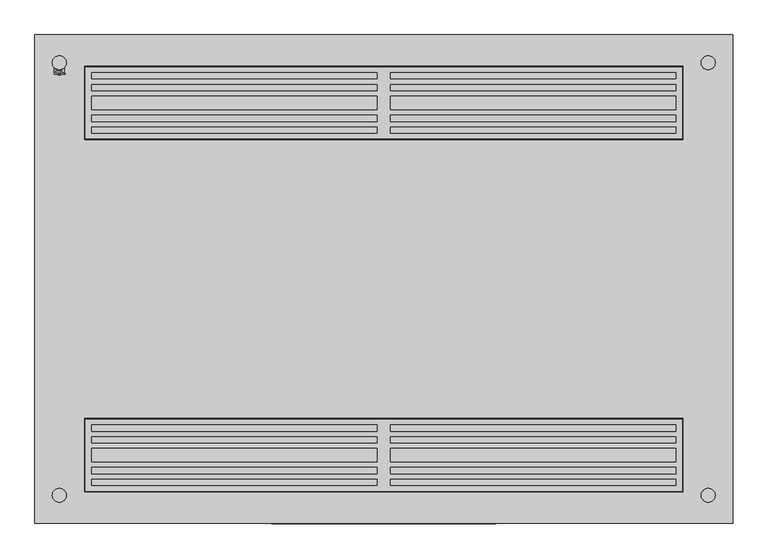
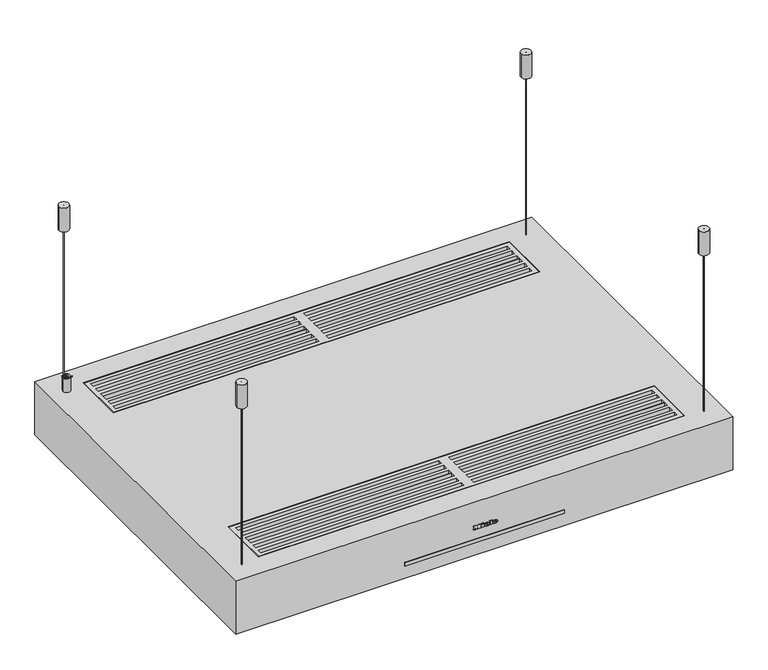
"""IFC4 building model written with IfcOpenShell, lengths in millimetres: proxy geometry, 10863410_RU_DA6708D_BRWS : 28670835_RU_10863410_DA6708D_BRWS."""

from ifc_helpers import new_model, si_unit, point, frame, frame_2d, origin, place, context, project, spatial, polyline, circle_curve, ellipse_curve, trimmed, segment, composite_curve, outline, extrude, faceted_brep, source, transform, mapped, element, save
from ifc_brep_helpers import plane_surface, cylinder_surface, revolved_surface, extruded_surface, advanced_brep


def specialty_equipment_cb2d4b99(model_context):
    return source(origin(), model_context, "Body", "SolidModel", [
        advanced_brep(
        [(195.883263, 289.0, 0.0), (254.116737, 289.0, 0.0), (251.5433287, 289.0, -1.2), (198.4566713, 289.0, -1.2), (225.0, 289.0, -1.2), (225.0, 289.0, 0.0)],
        [
            (0, 1, circle_curve(frame((225.0, 289.0, 0.0), z_axis=(0.0, 0.0, -1.0), x_axis=(1.0, 0.0, 0.0)), 29.116737)),
            (1, 2),
            (2, 3, circle_curve(frame((225.0, 289.0, -1.2), z_axis=(0.0, 0.0, 1.0), x_axis=(1.0, 0.0, 0.0)), 26.5433287)),
            (3, 0),
            (1, 0, circle_curve(frame((225.0, 289.0, 0.0), z_axis=(0.0, 0.0, -1.0), x_axis=(1.0, 0.0, 0.0)), 29.116737)),
            (3, 2, circle_curve(frame((225.0, 289.0, -1.2), z_axis=(0.0, 0.0, 1.0), x_axis=(1.0, 0.0, 0.0)), 26.5433287)),
            (2, 4),
            (4, 3),
            (5, 1),
            (0, 5),
        ],
        [
            revolved_surface(polyline([(251.5433287, 289.0, -1.2), (254.116737, 289.0, 0.0)]), (225.0, 289.0, 2238.4), (0.0, 0.0, 1.0)),
            plane_surface(frame((225.0, 289.0, -1.2), z_axis=(0.0, 0.0, -1.0), x_axis=(1.0, 0.0, 0.0))),
            plane_surface(frame((225.0, 289.0, 0.0), z_axis=(0.0, 0.0, 1.0), x_axis=(1.0, 0.0, 0.0))),
        ],
        [
            (0, [[1, 2, 3, 4]]),
            (0, [[5, -4, 6, -2]]),
            (1, [[-3, 7, 8]]),
            (1, [[-6, -8, -7]]),
            (2, [[9, -1, 10]]),
            (2, [[-10, -5, -9]]),
        ],
    ),
        advanced_brep(
        [(-254.116737, 289.0, 0.0), (-195.883263, 289.0, 0.0), (-198.4566713, 289.0, -1.2), (-251.5433287, 289.0, -1.2), (-225.0, 289.0, -1.2), (-225.0, 289.0, 0.0)],
        [
            (0, 1, circle_curve(frame((-225.0, 289.0, 0.0), z_axis=(0.0, 0.0, -1.0), x_axis=(1.0, 0.0, 0.0)), 29.116737)),
            (1, 2),
            (2, 3, circle_curve(frame((-225.0, 289.0, -1.2), z_axis=(0.0, 0.0, 1.0), x_axis=(1.0, 0.0, 0.0)), 26.5433287)),
            (3, 0),
            (1, 0, circle_curve(frame((-225.0, 289.0, 0.0), z_axis=(0.0, 0.0, -1.0), x_axis=(1.0, 0.0, 0.0)), 29.116737)),
            (3, 2, circle_curve(frame((-225.0, 289.0, -1.2), z_axis=(0.0, 0.0, 1.0), x_axis=(1.0, 0.0, 0.0)), 26.5433287)),
            (2, 4),
            (4, 3),
            (5, 1),
            (0, 5),
        ],
        [
            revolved_surface(polyline([(-198.4566713, 289.0, -1.2), (-195.883263, 289.0, 0.0)]), (-225.0, 289.0, 2238.4), (0.0, 0.0, 1.0)),
            plane_surface(frame((-225.0, 289.0, -1.2), z_axis=(0.0, 0.0, -1.0), x_axis=(1.0, 0.0, 0.0))),
            plane_surface(frame((-225.0, 289.0, 0.0), z_axis=(0.0, 0.0, 1.0), x_axis=(1.0, 0.0, 0.0))),
        ],
        [
            (0, [[1, 2, 3, 4]]),
            (0, [[5, -4, 6, -2]]),
            (1, [[-3, 7, 8]]),
            (1, [[-6, -8, -7]]),
            (2, [[9, -1, 10]]),
            (2, [[-10, -5, -9]]),
        ],
    ),
        advanced_brep(
        [(-251.5433287, -289.0, -1.2), (-198.4566713, -289.0, -1.2), (-195.883263, -289.0, 0.0), (-254.116737, -289.0, 0.0), (-225.0, -289.0, -1.2), (-225.0, -289.0, 0.0)],
        [
            (0, 1, circle_curve(frame((-225.0, -289.0, -1.2), z_axis=(0.0, 0.0, 1.0), x_axis=(1.0, 0.0, 0.0)), 26.5433287)),
            (1, 2),
            (2, 3, circle_curve(frame((-225.0, -289.0, 0.0), z_axis=(0.0, 0.0, -1.0), x_axis=(1.0, 0.0, 0.0)), 29.116737)),
            (3, 0),
            (1, 0, circle_curve(frame((-225.0, -289.0, -1.2), z_axis=(0.0, 0.0, 1.0), x_axis=(1.0, 0.0, 0.0)), 26.5433287)),
            (3, 2, circle_curve(frame((-225.0, -289.0, 0.0), z_axis=(0.0, 0.0, -1.0), x_axis=(1.0, 0.0, 0.0)), 29.116737)),
            (0, 4),
            (4, 1),
            (2, 5),
            (5, 3),
        ],
        [
            revolved_surface(polyline([(-195.883263, -289.0, 0.0), (-198.4566713, -289.0, -1.2)]), (-225.0, -289.0, 2238.4), (0.0, 0.0, -1.0)),
            plane_surface(frame((-225.0, -289.0, -1.2), z_axis=(0.0, 0.0, -1.0), x_axis=(1.0, 0.0, 0.0))),
            plane_surface(frame((-225.0, -289.0, 0.0), z_axis=(0.0, 0.0, 1.0), x_axis=(1.0, 0.0, 0.0))),
        ],
        [
            (0, [[1, 2, 3, 4]]),
            (0, [[-2, 5, -4, 6]]),
            (1, [[-1, 7, 8]]),
            (1, [[-5, -8, -7]]),
            (2, [[-3, 9, 10]]),
            (2, [[-6, -10, -9]]),
        ],
    ),
        advanced_brep(
        [(198.4566713, -289.0, -1.2), (251.5433287, -289.0, -1.2), (254.116737, -289.0, 0.0), (195.883263, -289.0, 0.0), (225.0, -289.0, -1.2), (225.0, -289.0, 0.0)],
        [
            (0, 1, circle_curve(frame((225.0, -289.0, -1.2), z_axis=(0.0, 0.0, 1.0), x_axis=(1.0, 0.0, 0.0)), 26.5433287)),
            (1, 2),
            (2, 3, circle_curve(frame((225.0, -289.0, 0.0), z_axis=(0.0, 0.0, -1.0), x_axis=(1.0, 0.0, 0.0)), 29.116737)),
            (3, 0),
            (1, 0, circle_curve(frame((225.0, -289.0, -1.2), z_axis=(0.0, 0.0, 1.0), x_axis=(1.0, 0.0, 0.0)), 26.5433287)),
            (3, 2, circle_curve(frame((225.0, -289.0, 0.0), z_axis=(0.0, 0.0, -1.0), x_axis=(1.0, 0.0, 0.0)), 29.116737)),
            (0, 4),
            (4, 1),
            (2, 5),
            (5, 3),
        ],
        [
            revolved_surface(polyline([(254.116737, -289.0, 0.0), (251.5433287, -289.0, -1.2)]), (225.0, -289.0, 2238.4), (0.0, 0.0, -1.0)),
            plane_surface(frame((225.0, -289.0, -1.2), z_axis=(0.0, 0.0, -1.0), x_axis=(1.0, 0.0, 0.0))),
            plane_surface(frame((225.0, -289.0, 0.0), z_axis=(0.0, 0.0, 1.0), x_axis=(1.0, 0.0, 0.0))),
        ],
        [
            (0, [[1, 2, 3, 4]]),
            (0, [[-2, 5, -4, 6]]),
            (1, [[-1, 7, 8]]),
            (1, [[-5, -8, -7]]),
            (2, [[-3, 9, 10]]),
            (2, [[-6, -10, -9]]),
        ],
    ),
        extrude(outline(composite_curve([segment(trimmed(circle_curve(frame_2d((-465.0, -310.0)), 10.0), [point((-475.0, -310.0))], [point((-455.0, -310.0))], False, "CARTESIAN"), True, "CONTINUOUS"), segment(trimmed(circle_curve(frame_2d((-465.0, -310.0)), 10.0), [point((-455.0, -310.0))], [point((-475.0, -310.0))], False, "CARTESIAN"), True, "CONTINUOUS")], self_intersect=False)), frame((0.0, 0.0, 450.0), z_axis=(0.0, 0.0, 1.0), x_axis=(1.0, 0.0, 0.0)), (0.0, 0.0, 1.0), 50.0),
        extrude(outline(composite_curve([segment(trimmed(circle_curve(frame_2d((465.0, -310.0)), 10.0), [point((455.0, -310.0))], [point((475.0, -310.0))], False, "CARTESIAN"), True, "CONTINUOUS"), segment(trimmed(circle_curve(frame_2d((465.0, -310.0)), 10.0), [point((475.0, -310.0))], [point((455.0, -310.0))], False, "CARTESIAN"), True, "CONTINUOUS")], self_intersect=False)), frame((0.0, 0.0, 450.0), z_axis=(0.0, 0.0, 1.0), x_axis=(1.0, 0.0, 0.0)), (0.0, 0.0, 1.0), 50.0),
        extrude(outline(composite_curve([segment(trimmed(circle_curve(frame_2d((465.0, 310.0)), 10.0), [point((455.0, 310.0))], [point((475.0, 310.0))], False, "CARTESIAN"), True, "CONTINUOUS"), segment(trimmed(circle_curve(frame_2d((465.0, 310.0)), 10.0), [point((475.0, 310.0))], [point((455.0, 310.0))], False, "CARTESIAN"), True, "CONTINUOUS")], self_intersect=False)), frame((0.0, 0.0, 450.0), z_axis=(0.0, 0.0, 1.0), x_axis=(1.0, 0.0, 0.0)), (0.0, 0.0, 1.0), 50.0),
        extrude(outline(composite_curve([segment(trimmed(circle_curve(frame_2d((-465.0, 310.0)), 10.0), [point((-475.0, 310.0))], [point((-455.0, 310.0))], False, "CARTESIAN"), True, "CONTINUOUS"), segment(trimmed(circle_curve(frame_2d((-465.0, 310.0)), 10.0), [point((-455.0, 310.0))], [point((-475.0, 310.0))], False, "CARTESIAN"), True, "CONTINUOUS")], self_intersect=False)), frame((0.0, 0.0, 450.0), z_axis=(0.0, 0.0, 1.0), x_axis=(1.0, 0.0, 0.0)), (0.0, 0.0, 1.0), 50.0),
        extrude(outline(composite_curve([segment(trimmed(circle_curve(frame_2d((-465.0, -310.0)), 0.8), [point((-465.8, -310.0))], [point((-464.2, -310.0))], False, "CARTESIAN"), True, "CONTINUOUS"), segment(trimmed(circle_curve(frame_2d((-465.0, -310.0)), 0.8), [point((-464.2, -310.0))], [point((-465.8, -310.0))], False, "CARTESIAN"), True, "CONTINUOUS")], self_intersect=False)), frame((0.0, 0.0, 112.0), z_axis=(0.0, 0.0, 1.0), x_axis=(1.0, 0.0, 0.0)), (0.0, 0.0, 1.0), 388.0),
        extrude(outline(composite_curve([segment(trimmed(circle_curve(frame_2d((465.0, -310.0)), 0.8), [point((464.2, -310.0))], [point((465.8, -310.0))], False, "CARTESIAN"), True, "CONTINUOUS"), segment(trimmed(circle_curve(frame_2d((465.0, -310.0)), 0.8), [point((465.8, -310.0))], [point((464.2, -310.0))], False, "CARTESIAN"), True, "CONTINUOUS")], self_intersect=False)), frame((0.0, 0.0, 112.0), z_axis=(0.0, 0.0, 1.0), x_axis=(1.0, 0.0, 0.0)), (0.0, 0.0, 1.0), 388.0),
        extrude(outline(composite_curve([segment(trimmed(circle_curve(frame_2d((465.0, 310.0)), 0.8), [point((464.2, 310.0))], [point((465.8, 310.0))], False, "CARTESIAN"), True, "CONTINUOUS"), segment(trimmed(circle_curve(frame_2d((465.0, 310.0)), 0.8), [point((465.8, 310.0))], [point((464.2, 310.0))], False, "CARTESIAN"), True, "CONTINUOUS")], self_intersect=False)), frame((0.0, 0.0, 112.0), z_axis=(0.0, 0.0, 1.0), x_axis=(1.0, 0.0, 0.0)), (0.0, 0.0, 1.0), 388.0),
        extrude(outline(composite_curve([segment(trimmed(circle_curve(frame_2d((-465.0, 310.0)), 0.8), [point((-465.8, 310.0))], [point((-464.2, 310.0))], False, "CARTESIAN"), True, "CONTINUOUS"), segment(trimmed(circle_curve(frame_2d((-465.0, 310.0)), 0.8), [point((-464.2, 310.0))], [point((-465.8, 310.0))], False, "CARTESIAN"), True, "CONTINUOUS")], self_intersect=False)), frame((0.0, 0.0, 112.0), z_axis=(0.0, 0.0, 1.0), x_axis=(1.0, 0.0, 0.0)), (0.0, 0.0, 1.0), 388.0),
        advanced_brep(
        [(21.104, -351.0, 56.396), (21.104, -351.0, 57.204), (26.456, -351.0, 57.204), (17.144, -351.0, 57.204), (19.344, -351.0, 54.5), (26.32, -351.0, 56.396), (23.904, -351.0, 56.396), (22.0, -351.0, 55.5), (21.104, -351.0, 58.228), (21.104, -351.0, 59.1), (22.472, -351.0, 59.1), (22.472, -351.0, 58.228), (21.104, -350.0, 56.396), (22.0, -350.0, 55.5), (23.904, -350.0, 56.396), (26.32, -350.0, 56.396), (19.344, -350.0, 54.5), (17.144, -350.0, 57.204), (26.456, -350.0, 57.204), (21.104, -350.0, 57.204), (21.104, -350.0, 58.228), (22.472, -350.0, 58.228), (22.472, -350.0, 59.1), (21.104, -350.0, 59.1)],
        [
            (0, 1),
            (1, 2),
            (2, 3, ellipse_curve(frame((21.8, -351.0, 57.204), z_axis=(0.0, -1.0, 0.0), x_axis=(-1.0, 0.0, 0.0)), 4.656, 3.848)),
            (3, 4, circle_curve(frame((20.2400436, -351.0, 57.476), z_axis=(0.0, -1.0, 0.0), x_axis=(0.0, 0.0, -1.0)), 3.1079688)),
            (4, 5, circle_curve(frame((21.7067936, -351.0, 59.588), z_axis=(0.0, -1.0, 0.0), x_axis=(0.0, 0.0, -1.0)), 5.6098607)),
            (5, 6),
            (6, 7, circle_curve(frame((22.3910588, -351.0, 57.14), z_axis=(0.0, 1.0, 0.0), x_axis=(0.0, 0.0, -1.0)), 1.6859795)),
            (7, 0, circle_curve(frame((22.0, -351.0, 56.396), z_axis=(0.0, 1.0, 0.0), x_axis=(0.0, 0.0, -1.0)), 0.896)),
            (8, 9),
            (9, 10, circle_curve(frame((21.788, -351.0, 59.1), z_axis=(0.0, 1.0, 0.0), x_axis=(0.0, 0.0, -1.0)), 0.684)),
            (10, 11),
            (11, 8),
            (12, 13, circle_curve(frame((22.0, -350.0, 56.396), z_axis=(0.0, -1.0, 0.0), x_axis=(0.0, 0.0, -1.0)), 0.896)),
            (13, 14, circle_curve(frame((22.3910588, -350.0, 57.14), z_axis=(0.0, -1.0, 0.0), x_axis=(0.0, 0.0, -1.0)), 1.6859795)),
            (14, 15),
            (15, 16, circle_curve(frame((21.7067936, -350.0, 59.588), z_axis=(0.0, 1.0, 0.0), x_axis=(0.0, 0.0, -1.0)), 5.6098607)),
            (16, 17, circle_curve(frame((20.2400436, -350.0, 57.476), z_axis=(0.0, 1.0, 0.0), x_axis=(0.0, 0.0, -1.0)), 3.1079688)),
            (17, 18, ellipse_curve(frame((21.8, -350.0, 57.204), z_axis=(0.0, 1.0, 0.0), x_axis=(-1.0, 0.0, 0.0)), 4.656, 3.848)),
            (18, 19),
            (19, 12),
            (20, 21),
            (21, 22),
            (22, 23, circle_curve(frame((21.788, -350.0, 59.1), z_axis=(0.0, -1.0, 0.0), x_axis=(0.0, 0.0, -1.0)), 0.684)),
            (23, 20),
            (0, 12),
            (19, 1),
            (18, 2),
            (5, 15),
            (14, 6),
            (17, 3),
            (13, 7),
            (16, 4),
            (8, 20),
            (23, 9),
            (22, 10),
            (21, 11),
        ],
        [
            plane_surface(frame((21.104, -351.0, 57.204), z_axis=(0.0, -1.0, 0.0), x_axis=(0.0, 0.0, 1.0))),
            plane_surface(frame((21.104, -350.0, 57.204), z_axis=(0.0, 1.0, 0.0), x_axis=(0.0, 0.0, -1.0))),
            plane_surface(frame((21.104, -351.0, 56.396), z_axis=(1.0, 0.0, 0.0), x_axis=(0.0, 1.0, 0.0))),
            plane_surface(frame((21.104, -351.0, 57.204), z_axis=(0.0, 0.0, -1.0), x_axis=(0.0, 1.0, 0.0))),
            plane_surface(frame((26.32, -351.0, 56.396), z_axis=(0.0, 0.0, 1.0), x_axis=(0.0, 1.0, 0.0))),
            extruded_surface(trimmed(ellipse_curve(frame((21.8, -349.0, 57.204), z_axis=(0.0, -1.0, 0.0), x_axis=(-1.0, 0.0, 0.0)), 4.656, 3.848), [point((26.456, -349.0, 57.204))], [point((17.144, -349.0, 57.204))], True, "CARTESIAN"), (0.0, -1.0, 0.0), 1.0),
            revolved_surface(polyline([(22.3910588, -350.0, 55.4540205), (22.3910588, -351.0, 55.4540205)]), (22.3910588, -350.0, 57.14), (0.0, 1.0, 0.0)),
            revolved_surface(polyline([(22.0, -350.0, 55.5), (22.0, -351.0, 55.5)]), (22.0, -350.0, 56.396), (0.0, 1.0, 0.0)),
            cylinder_surface(frame((20.2400436, -350.0, 57.476), z_axis=(0.0, -1.0, 0.0), x_axis=(0.0, 0.0, -1.0)), 3.1079688),
            cylinder_surface(frame((21.7067936, -350.0, 59.588), z_axis=(0.0, -1.0, 0.0), x_axis=(0.0, 0.0, -1.0)), 5.6098607),
            plane_surface(frame((21.104, -351.0, 58.228), z_axis=(1.0, 0.0, 0.0), x_axis=(0.0, 1.0, 0.0))),
            revolved_surface(polyline([(21.788, -350.0, 58.416000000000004), (21.788, -351.0, 58.416000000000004)]), (21.788, -350.0, 59.1), (0.0, 1.0, 0.0)),
            plane_surface(frame((22.472, -351.0, 59.1), z_axis=(-1.0, 0.0, 0.0), x_axis=(0.0, 1.0, 0.0))),
            plane_surface(frame((22.472, -351.0, 58.228), z_axis=(0.0, 0.0, 1.0), x_axis=(0.0, 1.0, 0.0))),
        ],
        [
            (0, [[1, 2, 3, 4, 5, 6, 7, 8], [9, 10, 11, 12]]),
            (1, [[13, 14, 15, 16, 17, 18, 19, 20], [21, 22, 23, 24]]),
            (2, [[-1, 25, -20, 26]]),
            (3, [[-2, -26, -19, 27]]),
            (4, [[-6, 28, -15, 29]]),
            (5, [[-3, -27, -18, 30]]),
            (6, [[-7, -29, -14, 31]]),
            (7, [[-8, -31, -13, -25]]),
            (8, [[-4, -30, -17, 32]]),
            (9, [[-5, -32, -16, -28]]),
            (10, [[-9, 33, -24, 34]]),
            (11, [[-10, -34, -23, 35]]),
            (12, [[-11, -35, -22, 36]]),
            (13, [[-12, -36, -21, -33]]),
        ],
    ),
        advanced_brep(
        [(4.408, -351.0, 56.396), (4.408, -351.0, 57.204), (9.76, -351.0, 57.204), (0.448, -351.0, 57.204), (2.648, -351.0, 54.5), (9.624, -351.0, 56.396), (7.208, -351.0, 56.396), (5.304, -351.0, 55.5), (4.408, -351.0, 58.228), (4.408, -351.0, 59.1), (5.776, -351.0, 59.1), (5.776, -351.0, 58.228), (4.408, -350.0, 56.396), (5.304, -350.0, 55.5), (7.208, -350.0, 56.396), (9.624, -350.0, 56.396), (2.648, -350.0, 54.5), (0.448, -350.0, 57.204), (9.76, -350.0, 57.204), (4.408, -350.0, 57.204), (4.408, -350.0, 58.228), (5.776, -350.0, 58.228), (5.776, -350.0, 59.1), (4.408, -350.0, 59.1)],
        [
            (0, 1),
            (1, 2),
            (2, 3, ellipse_curve(frame((5.104, -351.0, 57.204), z_axis=(0.0, -1.0, 0.0), x_axis=(-1.0, 0.0, 0.0)), 4.656, 3.848)),
            (3, 4, circle_curve(frame((3.5440436, -351.0, 57.476), z_axis=(0.0, -1.0, 0.0), x_axis=(0.0, 0.0, -1.0)), 3.1079688)),
            (4, 5, circle_curve(frame((5.0107936, -351.0, 59.588), z_axis=(0.0, -1.0, 0.0), x_axis=(0.0, 0.0, -1.0)), 5.6098607)),
            (5, 6),
            (6, 7, circle_curve(frame((5.6950588, -351.0, 57.14), z_axis=(0.0, 1.0, 0.0), x_axis=(0.0, 0.0, -1.0)), 1.6859795)),
            (7, 0, circle_curve(frame((5.304, -351.0, 56.396), z_axis=(0.0, 1.0, 0.0), x_axis=(0.0, 0.0, -1.0)), 0.896)),
            (8, 9),
            (9, 10, circle_curve(frame((5.092, -351.0, 59.1), z_axis=(0.0, 1.0, 0.0), x_axis=(0.0, 0.0, -1.0)), 0.684)),
            (10, 11),
            (11, 8),
            (12, 13, circle_curve(frame((5.304, -350.0, 56.396), z_axis=(0.0, -1.0, 0.0), x_axis=(0.0, 0.0, -1.0)), 0.896)),
            (13, 14, circle_curve(frame((5.6950588, -350.0, 57.14), z_axis=(0.0, -1.0, 0.0), x_axis=(0.0, 0.0, -1.0)), 1.6859795)),
            (14, 15),
            (15, 16, circle_curve(frame((5.0107936, -350.0, 59.588), z_axis=(0.0, 1.0, 0.0), x_axis=(0.0, 0.0, -1.0)), 5.6098607)),
            (16, 17, circle_curve(frame((3.5440436, -350.0, 57.476), z_axis=(0.0, 1.0, 0.0), x_axis=(0.0, 0.0, -1.0)), 3.1079688)),
            (17, 18, ellipse_curve(frame((5.104, -350.0, 57.204), z_axis=(0.0, 1.0, 0.0), x_axis=(-1.0, 0.0, 0.0)), 4.656, 3.848)),
            (18, 19),
            (19, 12),
            (20, 21),
            (21, 22),
            (22, 23, circle_curve(frame((5.092, -350.0, 59.1), z_axis=(0.0, -1.0, 0.0), x_axis=(0.0, 0.0, -1.0)), 0.684)),
            (23, 20),
            (0, 12),
            (19, 1),
            (18, 2),
            (5, 15),
            (14, 6),
            (17, 3),
            (13, 7),
            (16, 4),
            (8, 20),
            (23, 9),
            (22, 10),
            (21, 11),
        ],
        [
            plane_surface(frame((4.408, -351.0, 57.204), z_axis=(0.0, -1.0, 0.0), x_axis=(0.0, 0.0, 1.0))),
            plane_surface(frame((4.408, -350.0, 57.204), z_axis=(0.0, 1.0, 0.0), x_axis=(0.0, 0.0, -1.0))),
            plane_surface(frame((4.408, -351.0, 56.396), z_axis=(1.0, 0.0, 0.0), x_axis=(0.0, 1.0, 0.0))),
            plane_surface(frame((4.408, -351.0, 57.204), z_axis=(0.0, 0.0, -1.0), x_axis=(0.0, 1.0, 0.0))),
            plane_surface(frame((9.624, -351.0, 56.396), z_axis=(0.0, 0.0, 1.0), x_axis=(0.0, 1.0, 0.0))),
            extruded_surface(trimmed(ellipse_curve(frame((5.104, -349.0, 57.204), z_axis=(0.0, -1.0, 0.0), x_axis=(-1.0, 0.0, 0.0)), 4.656, 3.848), [point((9.76, -349.0, 57.204))], [point((0.448, -349.0, 57.204))], True, "CARTESIAN"), (0.0, -1.0, 0.0), 1.0),
            revolved_surface(polyline([(5.6950588, -350.0, 55.4540205), (5.6950588, -351.0, 55.4540205)]), (5.6950588, -350.0, 57.14), (0.0, 1.0, 0.0)),
            revolved_surface(polyline([(5.304, -350.0, 55.5), (5.304, -351.0, 55.5)]), (5.304, -350.0, 56.396), (0.0, 1.0, 0.0)),
            cylinder_surface(frame((3.5440436, -350.0, 57.476), z_axis=(0.0, -1.0, 0.0), x_axis=(0.0, 0.0, -1.0)), 3.1079688),
            cylinder_surface(frame((5.0107936, -350.0, 59.588), z_axis=(0.0, -1.0, 0.0), x_axis=(0.0, 0.0, -1.0)), 5.6098607),
            plane_surface(frame((4.408, -351.0, 58.228), z_axis=(1.0, 0.0, 0.0), x_axis=(0.0, 1.0, 0.0))),
            revolved_surface(polyline([(5.092, -350.0, 58.416000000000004), (5.092, -351.0, 58.416000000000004)]), (5.092, -350.0, 59.1), (0.0, 1.0, 0.0)),
            plane_surface(frame((5.776, -351.0, 59.1), z_axis=(-1.0, 0.0, 0.0), x_axis=(0.0, 1.0, 0.0))),
            plane_surface(frame((5.776, -351.0, 58.228), z_axis=(0.0, 0.0, 1.0), x_axis=(0.0, 1.0, 0.0))),
        ],
        [
            (0, [[1, 2, 3, 4, 5, 6, 7, 8], [9, 10, 11, 12]]),
            (1, [[13, 14, 15, 16, 17, 18, 19, 20], [21, 22, 23, 24]]),
            (2, [[-1, 25, -20, 26]]),
            (3, [[-2, -26, -19, 27]]),
            (4, [[-6, 28, -15, 29]]),
            (5, [[-3, -27, -18, 30]]),
            (6, [[-7, -29, -14, 31]]),
            (7, [[-8, -31, -13, -25]]),
            (8, [[-4, -30, -17, 32]]),
            (9, [[-5, -32, -16, -28]]),
            (10, [[-9, 33, -24, 34]]),
            (11, [[-10, -34, -23, 35]]),
            (12, [[-11, -35, -22, 36]]),
            (13, [[-12, -36, -21, -33]]),
        ],
    ),
        extrude(outline(polyline([(62.028, -4.336), (60.732, -3.728), (61.996, -1.016), (63.292, -1.616), (62.028, -4.336)])), frame((0.0, -351.0, 0.0), z_axis=(0.0, 1.0, 0.0), x_axis=(0.0, 0.0, 1.0)), (0.0, 0.0, 1.0), 1.0),
        extrude(outline(polyline([(60.556, -6.312), (59.124, -6.312), (59.124, -5.36), (55.844, -5.36), (55.844, -6.312), (54.5, -6.312), (54.5, 0.0), (55.844, 0.0), (55.844, -0.928), (60.556, -0.928), (60.556, -6.312)])), frame((0.0, -351.0, 0.0), z_axis=(0.0, 1.0, 0.0), x_axis=(0.0, 0.0, 1.0)), (0.0, 0.0, 1.0), 1.0),
        extrude(outline(polyline([(61.196, 10.208), (61.196, 11.168), (55.844, 11.168), (55.844, 10.208), (54.5, 10.208), (54.5, 16.696), (55.844, 16.696), (55.844, 15.712), (62.5, 15.712), (62.5, 10.208), (61.196, 10.208)])), frame((0.0, -351.0, 0.0), z_axis=(0.0, 1.0, 0.0), x_axis=(0.0, 0.0, 1.0)), (0.0, 0.0, 1.0), 1.0),
        extrude(outline(polyline([(61.196, -22.256), (61.196, -21.288), (55.844, -21.288), (55.844, -22.256), (54.5, -22.256), (54.5, -18.736), (55.844, -18.736), (55.844, -19.696), (59.2471247, -19.696), (54.5, -16.12), (59.3152223, -12.528), (55.844, -12.528), (55.844, -13.512), (54.5, -13.512), (54.5, -7.128), (55.844, -7.128), (55.844, -8.144), (61.196, -8.144), (61.196, -7.128), (62.5, -7.128), (62.5, -12.0), (59.5, -14.336), (62.5, -16.68), (62.5, -22.256), (61.196, -22.256)])), frame((0.0, -351.0, 0.0), z_axis=(0.0, 1.0, 0.0), x_axis=(0.0, 0.0, 1.0)), (0.0, 0.0, 1.0), 1.0),
        extrude(outline(polyline([(63.5, 227.0), (378.0, 227.0), (378.0, -227.0), (63.5, -227.0), (63.5, 227.0)])), frame((0.0, 0.0, 1.2), z_axis=(0.0, 0.0, 1.0), x_axis=(1.0, 0.0, 0.0)), (0.0, 0.0, 1.0), 6.0),
        extrude(outline(polyline([(54.5, 236.0), (387.0, 236.0), (387.0, -236.0), (54.5, -236.0), (54.5, 236.0)]), holes=[polyline([(63.5, 227.0), (63.5, -227.0), (378.0, -227.0), (378.0, 227.0), (63.5, 227.0)])]), frame((0.0, 0.0, -0.3), z_axis=(0.0, 0.0, 1.0), x_axis=(1.0, 0.0, 0.0)), (0.0, 0.0, 1.0), 9.0),
        extrude(outline(polyline([(-63.5, 227.0), (-63.5, -227.0), (-378.0, -227.0), (-378.0, 227.0), (-63.5, 227.0)])), frame((0.0, 0.0, 1.2), z_axis=(0.0, 0.0, 1.0), x_axis=(1.0, 0.0, 0.0)), (0.0, 0.0, 1.0), 6.0),
        extrude(outline(polyline([(-54.5, 236.0), (-54.5, -236.0), (-387.0, -236.0), (-387.0, 236.0), (-54.5, 236.0)]), holes=[polyline([(-63.5, 227.0), (-378.0, 227.0), (-378.0, -227.0), (-63.5, -227.0), (-63.5, 227.0)])]), frame((0.0, 0.0, -0.3), z_axis=(0.0, 0.0, 1.0), x_axis=(1.0, 0.0, 0.0)), (0.0, 0.0, 1.0), 9.0),
        extrude(outline(polyline([(204.25, 184.0), (204.25, 227.0), (237.25, 227.0), (237.25, 184.0), (204.25, 184.0)]), holes=[polyline([(210.75, 190.5), (230.5214328, 190.5), (230.5214328, 199.5), (210.75, 199.5), (210.75, 190.5)])]), frame((0.0, 0.0, -0.3), z_axis=(0.0, 0.0, 1.0), x_axis=(1.0, 0.0, 0.0)), (0.0, 0.0, 1.0), 1.5),
        extrude(outline(polyline([(-204.25, 184.0), (-237.25, 184.0), (-237.25, 227.0), (-204.25, 227.0), (-204.25, 184.0)]), holes=[polyline([(-210.75, 190.5), (-210.75, 199.5), (-230.75, 199.5), (-230.75, 190.5), (-210.75, 190.5)])]), frame((0.0, 0.0, -0.3), z_axis=(0.0, 0.0, 1.0), x_axis=(1.0, 0.0, 0.0)), (0.0, 0.0, 1.0), 1.5),
        extrude(outline(polyline([(-427.6682536, 304.0), (427.6682536, 304.0), (427.6682536, 201.0), (-427.6682536, 201.0), (-427.6682536, 304.0)]), holes=[polyline([(10.0, 243.0), (418.6682536, 243.0), (418.6682536, 252.0), (10.0, 252.0), (10.0, 243.0)]), polyline([(-418.6682536, 253.0), (-10.0, 253.0), (-10.0, 262.0), (-418.6682536, 262.0), (-418.6682536, 253.0)]), polyline([(-418.6682536, 226.0), (-10.0, 226.0), (-10.0, 235.0), (-418.6682536, 235.0), (-418.6682536, 226.0)]), polyline([(10.0, 226.0), (418.6682536, 226.0), (418.6682536, 235.0), (10.0, 235.0), (10.0, 226.0)]), polyline([(-418.6682536, 243.0), (-10.0, 243.0), (-10.0, 252.0), (-418.6682536, 252.0), (-418.6682536, 243.0)]), polyline([(10.0, 287.0), (418.6682536, 287.0), (418.6682536, 296.0), (10.0, 296.0), (10.0, 287.0)]), polyline([(10.0, 209.0), (418.6682536, 209.0), (418.6682536, 218.0), (10.0, 218.0), (10.0, 209.0)]), polyline([(-418.6682536, 270.0), (-10.0, 270.0), (-10.0, 279.0), (-418.6682536, 279.0), (-418.6682536, 270.0)]), polyline([(-418.6682536, 287.0), (-10.0, 287.0), (-10.0, 296.0), (-418.6682536, 296.0), (-418.6682536, 287.0)]), polyline([(-418.6682536, 209.0), (-10.0, 209.0), (-10.0, 218.0), (-418.6682536, 218.0), (-418.6682536, 209.0)]), polyline([(10.0, 270.0), (418.6682536, 270.0), (418.6682536, 279.0), (10.0, 279.0), (10.0, 270.0)]), polyline([(10.0, 253.0), (418.6682536, 253.0), (418.6682536, 262.0), (10.0, 262.0), (10.0, 253.0)])]), frame((0.0, 0.0, 102.0), z_axis=(0.0, 0.0, 1.0), x_axis=(1.0, 0.0, 0.0)), (0.0, 0.0, 1.0), 10.0),
        extrude(outline(polyline([(-427.6682536, -304.0), (-427.6682536, -201.0), (427.6682536, -201.0), (427.6682536, -304.0), (-427.6682536, -304.0)]), holes=[polyline([(418.6682536, -226.0), (10.0, -226.0), (10.0, -235.0), (418.6682536, -235.0), (418.6682536, -226.0)]), polyline([(-10.0, -243.0), (-418.6682536, -243.0), (-418.6682536, -252.0), (-10.0, -252.0), (-10.0, -243.0)]), polyline([(-10.0, -253.0), (-418.6682536, -253.0), (-418.6682536, -262.0), (-10.0, -262.0), (-10.0, -253.0)]), polyline([(418.6682536, -253.0), (10.0, -253.0), (10.0, -262.0), (418.6682536, -262.0), (418.6682536, -253.0)]), polyline([(-10.0, -226.0), (-418.6682536, -226.0), (-418.6682536, -235.0), (-10.0, -235.0), (-10.0, -226.0)]), polyline([(418.6682536, -287.0), (10.0, -287.0), (10.0, -296.0), (418.6682536, -296.0), (418.6682536, -287.0)]), polyline([(418.6682536, -209.0), (10.0, -209.0), (10.0, -218.0), (418.6682536, -218.0), (418.6682536, -209.0)]), polyline([(418.6682536, -270.0), (10.0, -270.0), (10.0, -279.0), (418.6682536, -279.0), (418.6682536, -270.0)]), polyline([(-10.0, -287.0), (-418.6682536, -287.0), (-418.6682536, -296.0), (-10.0, -296.0), (-10.0, -287.0)]), polyline([(-10.0, -209.0), (-418.6682536, -209.0), (-418.6682536, -218.0), (-10.0, -218.0), (-10.0, -209.0)]), polyline([(-10.0, -270.0), (-418.6682536, -270.0), (-418.6682536, -279.0), (-10.0, -279.0), (-10.0, -270.0)]), polyline([(418.6682536, -243.0), (10.0, -243.0), (10.0, -252.0), (418.6682536, -252.0), (418.6682536, -243.0)])]), frame((0.0, 0.0, 102.0), z_axis=(0.0, 0.0, 1.0), x_axis=(1.0, 0.0, 0.0)), (0.0, 0.0, 1.0), 10.0),
        faceted_brep([(500.0, 350.0, 112.0), (-500.0, 350.0, 112.0), (-500.0, -350.0, 112.0), (500.0, -350.0, 112.0), (428.6682536, 305.0, 112.0), (428.6682536, 200.0, 112.0), (-428.6682536, 200.0, 112.0), (-428.6682536, 305.0, 112.0), (428.6682536, -200.0, 112.0), (428.6682536, -305.0, 112.0), (-428.6682536, -305.0, 112.0), (-428.6682536, -200.0, 112.0), (500.0, 350.0, 0.0), (500.0, -350.0, 0.0), (-500.0, -350.0, 0.0), (-500.0, 350.0, 0.0), (387.0, -236.0, 0.0), (387.0, 236.0, 0.0), (54.25, 236.0, 0.0), (54.25, -236.0, 0.0), (-54.25, -236.0, 0.0), (-54.25, 236.0, 0.0), (-387.0, 236.0, 0.0), (-387.0, -236.0, 0.0), (-54.25, -236.0, 10.0), (-54.25, 236.0, 10.0), (-387.0, -236.0, 10.0), (-387.0, 236.0, 10.0), (-428.6682536, 305.0, 102.0), (428.6682536, 305.0, 102.0), (428.6682536, 200.0, 102.0), (387.0, 236.0, 10.0), (387.0, -236.0, 10.0), (54.25, -236.0, 10.0), (54.25, 236.0, 10.0), (-428.6682536, 200.0, 102.0), (428.6682536, -200.0, 102.0), (-428.6682536, -200.0, 102.0), (-428.6682536, -305.0, 102.0), (428.6682536, -305.0, 102.0)], [[[0, 1, 2, 3], [4, 5, 6, 7], [8, 9, 10, 11]], [[12, 13, 14, 15], [16, 17, 18, 19], [20, 21, 22, 23]], [[0, 3, 13, 12]], [[1, 0, 12, 15]], [[2, 1, 15, 14]], [[3, 2, 14, 13]], [[24, 25, 21, 20]], [[26, 24, 20, 23]], [[27, 26, 23, 22]], [[25, 27, 22, 21]], [[28, 29, 4, 7]], [[29, 30, 5, 4]], [[31, 32, 33, 34]], [[25, 24, 26, 27]], [[32, 31, 17, 16]], [[33, 32, 16, 19]], [[34, 33, 19, 18]], [[31, 34, 18, 17]], [[29, 28, 35, 30]], [[36, 37, 38, 39]], [[30, 35, 6, 5]], [[35, 28, 7, 6]], [[36, 39, 9, 8]], [[39, 38, 10, 9]], [[38, 37, 11, 10]], [[37, 36, 8, 11]]]),
        extrude(outline(polyline([(-472.3772603, 294.0), (-472.3772603, 304.045631), (-465.156963, 304.045631), (-465.156963, 302.7899271), (-471.1215564, 302.7899271), (-471.1215564, 299.8076304), (-465.470889, 299.8076304), (-465.470889, 298.5519266), (-471.1215564, 298.5519266), (-471.1215564, 295.2557039), (-465.0, 295.2557039), (-465.0, 294.0), (-472.3772603, 294.0)])), frame((0.0, 0.0, 142.0), z_axis=(0.0, 0.0, 1.0), x_axis=(1.0, 0.0, 0.0)), (0.0, 0.0, 1.0), 1.0),
        extrude(outline(polyline([(-463.1164442, 294.0), (-463.1164442, 304.045631), (-461.8607403, 304.045631), (-461.8607403, 295.2557039), (-456.8379248, 295.2557039), (-456.8379248, 294.0), (-463.1164442, 294.0)])), frame((0.0, 0.0, 142.0), z_axis=(0.0, 0.0, 1.0), x_axis=(1.0, 0.0, 0.0)), (0.0, 0.0, 1.0), 1.0),
        extrude(outline(composite_curve([segment(trimmed(circle_curve(frame_2d((-465.0, 300.0)), 7.5), [point((-457.5, 300.0))], [point((-472.5, 300.0))], False, "CARTESIAN"), True, "CONTINUOUS"), segment(trimmed(circle_curve(frame_2d((-465.0, 300.0)), 7.5), [point((-472.5, 300.0))], [point((-457.5, 300.0))], False, "CARTESIAN"), True, "CONTINUOUS")], self_intersect=False)), frame((0.0, 0.0, 112.0), z_axis=(0.0, 0.0, 1.0), x_axis=(1.0, 0.0, 0.0)), (0.0, 0.0, 1.0), 30.0),
        extrude(outline(polyline([(160.5, -350.0), (160.5, -351.0), (-160.5, -351.0), (-160.5, -350.0), (160.5, -350.0)])), frame((0.0, 0.0, 26.0), z_axis=(0.0, 0.0, 1.0), x_axis=(1.0, 0.0, 0.0)), (0.0, 0.0, 1.0), 8.0),
    ])


if __name__ == "__main__":
    model = new_model("IFC4")
    model_context = context("Model", 3, world=origin())
    ifc_project = project(units=[si_unit("LENGTHUNIT", "METRE", prefix="MILLI")], contexts=[model_context])
    site = spatial("IfcSite", under=ifc_project)
    building = spatial("IfcBuilding", under=site)
    placement = place(None, origin())
    specialty_equipment_shape = specialty_equipment_cb2d4b99(model_context)
    element("IfcBuildingElementProxy", 1, Name="10863410_RU_DA6708D_BRWS : 28670835_RU_10863410_DA6708D_BRWS", ObjectType="10863410_RU_DA6708D_BRWS : 28670835_RU_10863410_DA6708D_BRWS", at=placement, inside=building, context=model_context, shape_type="MappedRepresentation", body=[
        mapped(specialty_equipment_shape, transform((0.0, 0.0, 0.0), x_axis=(1.0, 0.0, 0.0), y_axis=(0.0, 1.0, 0.0), z_axis=(0.0, 0.0, 1.0))),
    ])
    save(model, "model.ifc")
